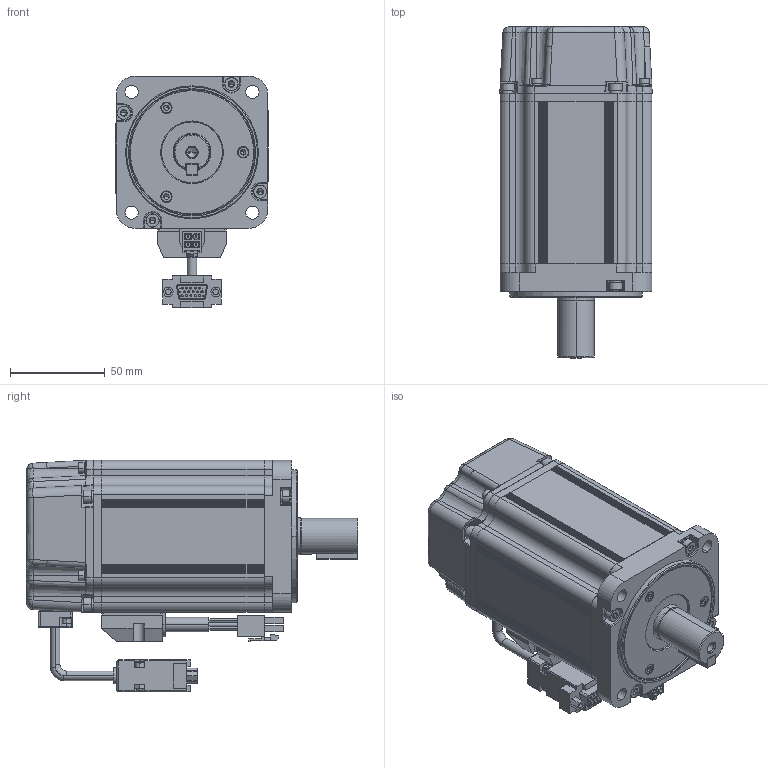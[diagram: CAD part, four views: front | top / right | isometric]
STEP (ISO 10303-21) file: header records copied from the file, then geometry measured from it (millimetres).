
FILE_DESCRIPTION((''),'2;1');
FILE_NAME('SV-ML80-0R7G-1A0_ASM','2018-05-04T',('q'),(''),'PRO/ENGINEER BY PARAMETRIC TECHNOLOGY CORPORATION, 2009440','PRO/ENGINEER BY PARAMETRIC TECHNOLOGY CORPORATION, 2009440','');
FILE_SCHEMA(('CONFIG_CONTROL_DESIGN'));
Products named in the file (25): 80-750W-Z; 80-750W-ZZ_ASM; 80-Q; GB-T276-6004; 80-MFDP; 80-ZCYG; GB-T9877-20X32X6L; GB-T93-3; GB-T70-M3X12; GB-T93-4; GB-T70-M4X20; 80-Q_ASM; 80-750-JK; DYX-CT; DYX-YXH; 80-750-DZ_ASM; 80-HDG; 36023662; 80_2; XHX; GB-T93-2R5; GB-T70-M2R5X8; XHX-ZJ; DYX-ZJ; SV-ML80-0R7G-1A0_ASM
Assembly tree (52 placements, depth 3):
  SV-ML80-0R7G-1A0_ASM
    80-750W-ZZ_ASM
      80-750W-Z
    80-Q_ASM
      80-Q
      GB-T276-6004
      80-MFDP
      80-ZCYG
      GB-T9877-20X32X6L
      GB-T93-3  x3
      GB-T70-M3X12  x3
      GB-T93-4  x4
      GB-T70-M4X20  x4
    80-750-DZ_ASM
      80-750-JK
      DYX-CT
      DYX-YXH
    80-HDG
    36023662
    80_2
    XHX
    GB-T93-2R5  x2
    GB-T70-M2R5X8  x2
    XHX-ZJ
    DYX-ZJ
    GB-T93-3  x4
    GB-T70-M3X12  x4
    GB-T93-4  x4
    GB-T70-M4X20  x4
Bounding box: 80.14 x 174.9 x 121.98 mm (x, y, z)
Volume: 337677.1 mm3; surface area: 180568.7 mm2
Topology: 49 solids, 70 shells, 2794 faces, 6584 edges, 4027 vertices
Faces by surface type: plane 1322, cylinder 796, cone 320, bspline 158, torus 145, sphere 49, extrusion 4
Entity records: 94178 total; most frequent: CARTESIAN_POINT 24887, DIRECTION 10929, ORIENTED_EDGE 10770, PRESENTATION_STYLE_ASSIGNMENT 5433, STYLED_ITEM 5433, CURVE_STYLE 5405, EDGE_CURVE 5405, AXIS2_PLACEMENT_3D 3893
